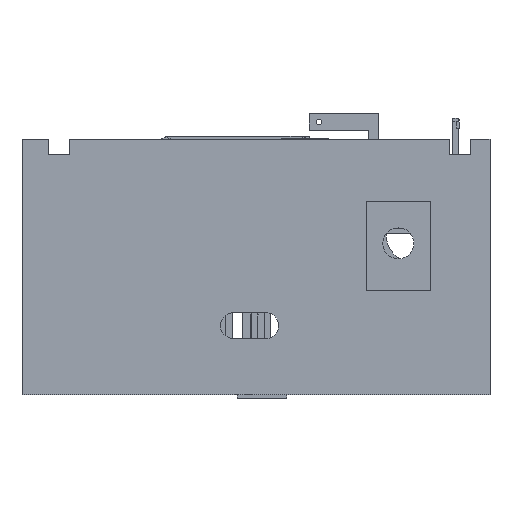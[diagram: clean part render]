
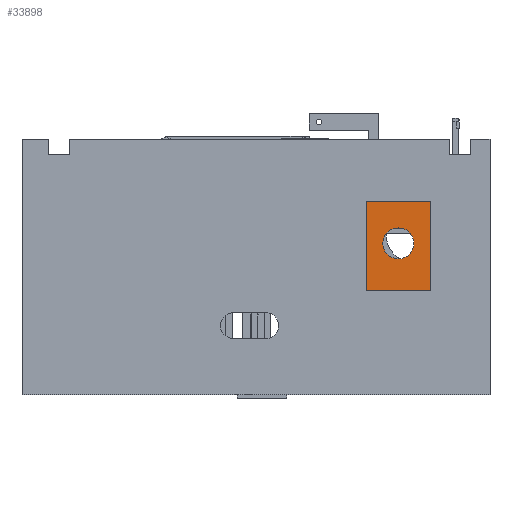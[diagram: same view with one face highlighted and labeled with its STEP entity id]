
A CAD part, front view. The second image highlights one B-rep face of the part: STEP entity #33898.
In plain terms, the highlighted planar face has unit normal (0, -1, 0).
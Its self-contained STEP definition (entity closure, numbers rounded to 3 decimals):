
#3754 = PLANE('',#3755);
#3755 = AXIS2_PLACEMENT_3D('',#3756,#3757,#3758);
#3756 = CARTESIAN_POINT('',(159.,-103.,82.));
#3757 = DIRECTION('',(1.,0.,0.));
#3758 = DIRECTION('',(0.,0.,1.));
#3808 = PLANE('',#3809);
#3809 = AXIS2_PLACEMENT_3D('',#3810,#3811,#3812);
#3810 = CARTESIAN_POINT('',(185.,-103.,82.));
#3811 = DIRECTION('',(1.,0.,0.));
#3812 = DIRECTION('',(0.,0.,1.));
#4850 = PLANE('',#4851);
#4851 = AXIS2_PLACEMENT_3D('',#4852,#4853,#4854);
#4852 = CARTESIAN_POINT('',(172.,-99.664,118.));
#4853 = DIRECTION('',(0.,0.,1.));
#4854 = DIRECTION('',(1.,0.,0.));
#4904 = PLANE('',#4905);
#4905 = AXIS2_PLACEMENT_3D('',#4906,#4907,#4908);
#4906 = CARTESIAN_POINT('',(172.,-99.664,82.));
#4907 = DIRECTION('',(-0.,-0.,-1.));
#4908 = DIRECTION('',(-1.,0.,0.));
#14490 = VERTEX_POINT('',#14491);
#14491 = CARTESIAN_POINT('',(159.,-100.5,82.));
#14512 = EDGE_CURVE('',#14513,#14490,#14515,.T.);
#14513 = VERTEX_POINT('',#14514);
#14514 = CARTESIAN_POINT('',(159.,-100.5,118.));
#14515 = SURFACE_CURVE('',#14516,(#14520,#14526),.PCURVE_S1.);
#14516 = LINE('',#14517,#14518);
#14517 = CARTESIAN_POINT('',(159.,-100.5,82.));
#14518 = VECTOR('',#14519,1.);
#14519 = DIRECTION('',(0.,0.,-1.));
#14520 = PCURVE('',#3754,#14521);
#14521 = DEFINITIONAL_REPRESENTATION('',(#14522),#14525);
#14522 = B_SPLINE_CURVE_WITH_KNOTS('',1,(#14523,#14524),.UNSPECIFIED.,
  .F.,.F.,(2,2),(-36.,-0.),.PIECEWISE_BEZIER_KNOTS.);
#14523 = CARTESIAN_POINT('',(36.,-2.5));
#14524 = CARTESIAN_POINT('',(0.,-2.5));
#14525 = ( GEOMETRIC_REPRESENTATION_CONTEXT(2) 
PARAMETRIC_REPRESENTATION_CONTEXT() REPRESENTATION_CONTEXT('2D SPACE',''
  ) );
#14526 = PCURVE('',#14527,#14532);
#14527 = PLANE('',#14528);
#14528 = AXIS2_PLACEMENT_3D('',#14529,#14530,#14531);
#14529 = CARTESIAN_POINT('',(155.,-100.5,82.));
#14530 = DIRECTION('',(0.,1.,0.));
#14531 = DIRECTION('',(0.,0.,1.));
#14532 = DEFINITIONAL_REPRESENTATION('',(#14533),#14536);
#14533 = B_SPLINE_CURVE_WITH_KNOTS('',1,(#14534,#14535),.UNSPECIFIED.,
  .F.,.F.,(2,2),(-36.,-0.),.PIECEWISE_BEZIER_KNOTS.);
#14534 = CARTESIAN_POINT('',(36.,4.));
#14535 = CARTESIAN_POINT('',(0.,4.));
#14536 = ( GEOMETRIC_REPRESENTATION_CONTEXT(2) 
PARAMETRIC_REPRESENTATION_CONTEXT() REPRESENTATION_CONTEXT('2D SPACE',''
  ) );
#14620 = VERTEX_POINT('',#14621);
#14621 = CARTESIAN_POINT('',(185.,-100.5,82.));
#14642 = EDGE_CURVE('',#14643,#14620,#14645,.T.);
#14643 = VERTEX_POINT('',#14644);
#14644 = CARTESIAN_POINT('',(185.,-100.5,118.));
#14645 = SURFACE_CURVE('',#14646,(#14650,#14656),.PCURVE_S1.);
#14646 = LINE('',#14647,#14648);
#14647 = CARTESIAN_POINT('',(185.,-100.5,82.));
#14648 = VECTOR('',#14649,1.);
#14649 = DIRECTION('',(0.,0.,-1.));
#14650 = PCURVE('',#3808,#14651);
#14651 = DEFINITIONAL_REPRESENTATION('',(#14652),#14655);
#14652 = B_SPLINE_CURVE_WITH_KNOTS('',1,(#14653,#14654),.UNSPECIFIED.,
  .F.,.F.,(2,2),(-36.,-0.),.PIECEWISE_BEZIER_KNOTS.);
#14653 = CARTESIAN_POINT('',(36.,-2.5));
#14654 = CARTESIAN_POINT('',(0.,-2.5));
#14655 = ( GEOMETRIC_REPRESENTATION_CONTEXT(2) 
PARAMETRIC_REPRESENTATION_CONTEXT() REPRESENTATION_CONTEXT('2D SPACE',''
  ) );
#14656 = PCURVE('',#14527,#14657);
#14657 = DEFINITIONAL_REPRESENTATION('',(#14658),#14661);
#14658 = B_SPLINE_CURVE_WITH_KNOTS('',1,(#14659,#14660),.UNSPECIFIED.,
  .F.,.F.,(2,2),(-36.,-0.),.PIECEWISE_BEZIER_KNOTS.);
#14659 = CARTESIAN_POINT('',(36.,30.));
#14660 = CARTESIAN_POINT('',(0.,30.));
#14661 = ( GEOMETRIC_REPRESENTATION_CONTEXT(2) 
PARAMETRIC_REPRESENTATION_CONTEXT() REPRESENTATION_CONTEXT('2D SPACE',''
  ) );
#15831 = EDGE_CURVE('',#14513,#14643,#15832,.T.);
#15832 = SURFACE_CURVE('',#15833,(#15837,#15844),.PCURVE_S1.);
#15833 = LINE('',#15834,#15835);
#15834 = CARTESIAN_POINT('',(155.,-100.5,118.));
#15835 = VECTOR('',#15836,1.);
#15836 = DIRECTION('',(1.,0.,0.));
#15837 = PCURVE('',#4850,#15838);
#15838 = DEFINITIONAL_REPRESENTATION('',(#15839),#15843);
#15839 = LINE('',#15840,#15841);
#15840 = CARTESIAN_POINT('',(-17.,-0.836));
#15841 = VECTOR('',#15842,1.);
#15842 = DIRECTION('',(1.,0.));
#15843 = ( GEOMETRIC_REPRESENTATION_CONTEXT(2) 
PARAMETRIC_REPRESENTATION_CONTEXT() REPRESENTATION_CONTEXT('2D SPACE',''
  ) );
#15844 = PCURVE('',#14527,#15845);
#15845 = DEFINITIONAL_REPRESENTATION('',(#15846),#15850);
#15846 = LINE('',#15847,#15848);
#15847 = CARTESIAN_POINT('',(36.,0.));
#15848 = VECTOR('',#15849,1.);
#15849 = DIRECTION('',(0.,1.));
#15850 = ( GEOMETRIC_REPRESENTATION_CONTEXT(2) 
PARAMETRIC_REPRESENTATION_CONTEXT() REPRESENTATION_CONTEXT('2D SPACE',''
  ) );
#16025 = EDGE_CURVE('',#14490,#14620,#16026,.T.);
#16026 = SURFACE_CURVE('',#16027,(#16031,#16038),.PCURVE_S1.);
#16027 = LINE('',#16028,#16029);
#16028 = CARTESIAN_POINT('',(155.,-100.5,82.));
#16029 = VECTOR('',#16030,1.);
#16030 = DIRECTION('',(1.,0.,0.));
#16031 = PCURVE('',#4904,#16032);
#16032 = DEFINITIONAL_REPRESENTATION('',(#16033),#16037);
#16033 = LINE('',#16034,#16035);
#16034 = CARTESIAN_POINT('',(17.,-0.836));
#16035 = VECTOR('',#16036,1.);
#16036 = DIRECTION('',(-1.,0.));
#16037 = ( GEOMETRIC_REPRESENTATION_CONTEXT(2) 
PARAMETRIC_REPRESENTATION_CONTEXT() REPRESENTATION_CONTEXT('2D SPACE',''
  ) );
#16038 = PCURVE('',#14527,#16039);
#16039 = DEFINITIONAL_REPRESENTATION('',(#16040),#16044);
#16040 = LINE('',#16041,#16042);
#16041 = CARTESIAN_POINT('',(0.,0.));
#16042 = VECTOR('',#16043,1.);
#16043 = DIRECTION('',(0.,1.));
#16044 = ( GEOMETRIC_REPRESENTATION_CONTEXT(2) 
PARAMETRIC_REPRESENTATION_CONTEXT() REPRESENTATION_CONTEXT('2D SPACE',''
  ) );
#33898 = ADVANCED_FACE('',(#33899,#33905),#14527,.F.);
#33899 = FACE_BOUND('',#33900,.F.);
#33900 = EDGE_LOOP('',(#33901,#33902,#33903,#33904));
#33901 = ORIENTED_EDGE('',*,*,#16025,.F.);
#33902 = ORIENTED_EDGE('',*,*,#14512,.F.);
#33903 = ORIENTED_EDGE('',*,*,#15831,.T.);
#33904 = ORIENTED_EDGE('',*,*,#14642,.T.);
#33905 = FACE_BOUND('',#33906,.F.);
#33906 = EDGE_LOOP('',(#33907));
#33907 = ORIENTED_EDGE('',*,*,#33908,.F.);
#33908 = EDGE_CURVE('',#33909,#33909,#33911,.T.);
#33909 = VERTEX_POINT('',#33910);
#33910 = CARTESIAN_POINT('',(172.,-100.5,107.25));
#33911 = SURFACE_CURVE('',#33912,(#33917,#33924),.PCURVE_S1.);
#33912 = CIRCLE('',#33913,6.25);
#33913 = AXIS2_PLACEMENT_3D('',#33914,#33915,#33916);
#33914 = CARTESIAN_POINT('',(172.,-100.5,101.));
#33915 = DIRECTION('',(0.,1.,0.));
#33916 = DIRECTION('',(0.,0.,1.));
#33917 = PCURVE('',#14527,#33918);
#33918 = DEFINITIONAL_REPRESENTATION('',(#33919),#33923);
#33919 = CIRCLE('',#33920,6.25);
#33920 = AXIS2_PLACEMENT_2D('',#33921,#33922);
#33921 = CARTESIAN_POINT('',(19.,17.));
#33922 = DIRECTION('',(1.,0.));
#33923 = ( GEOMETRIC_REPRESENTATION_CONTEXT(2) 
PARAMETRIC_REPRESENTATION_CONTEXT() REPRESENTATION_CONTEXT('2D SPACE',''
  ) );
#33924 = PCURVE('',#33925,#33930);
#33925 = CYLINDRICAL_SURFACE('',#33926,6.25);
#33926 = AXIS2_PLACEMENT_3D('',#33927,#33928,#33929);
#33927 = CARTESIAN_POINT('',(172.,-101.,101.));
#33928 = DIRECTION('',(0.,1.,0.));
#33929 = DIRECTION('',(0.,0.,1.));
#33930 = DEFINITIONAL_REPRESENTATION('',(#33931),#33935);
#33931 = LINE('',#33932,#33933);
#33932 = CARTESIAN_POINT('',(0.,0.5));
#33933 = VECTOR('',#33934,1.);
#33934 = DIRECTION('',(1.,0.));
#33935 = ( GEOMETRIC_REPRESENTATION_CONTEXT(2) 
PARAMETRIC_REPRESENTATION_CONTEXT() REPRESENTATION_CONTEXT('2D SPACE',''
  ) );
